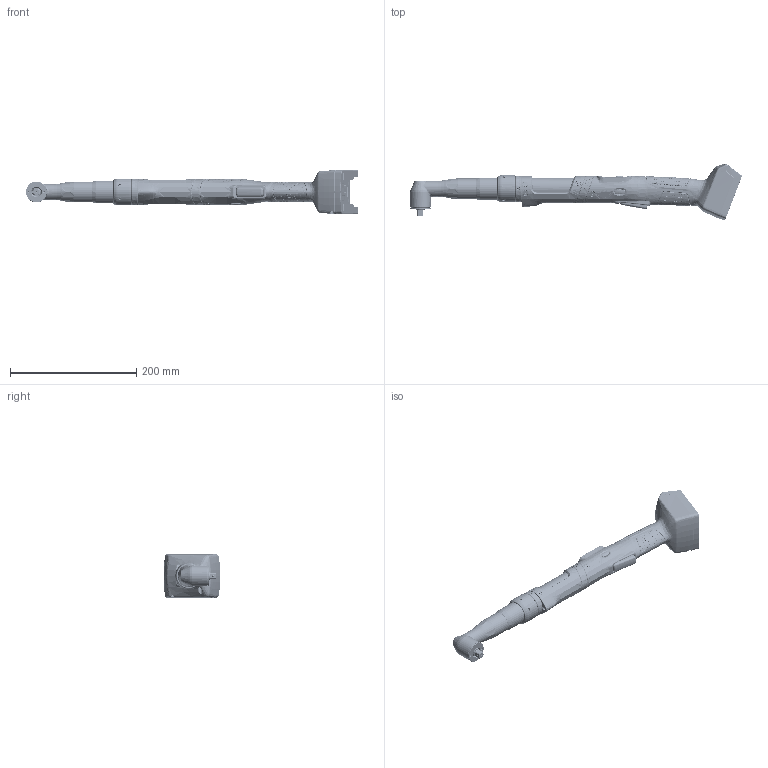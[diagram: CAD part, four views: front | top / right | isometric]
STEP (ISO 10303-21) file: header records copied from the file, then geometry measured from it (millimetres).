
FILE_DESCRIPTION((''),'2;1');
FILE_NAME('ASM0001_ASM','2019-12-09T',('A1X81'),(''),'CREO PARAMETRIC BY PTC INC, 2016050','CREO PARAMETRIC BY PTC INC, 2016050','');
FILE_SCHEMA(('CONFIG_CONTROL_DESIGN'));
Products named in the file (77): T50-3000249_SKEL_1; T50-3000229_SKEL_1; T50-1000607_1; T50-1000623_INSTALL_1; T50-3000229_ASM_1_ASM; T50-1000349-1_1; T50-1000349-2_1; T50-1000349-3_1; T50-1000349-4_1; T50-1000349-5_1; T50-1000349_ASM_1_ASM; T50-1000257_1; 207914PT_1; T50-3000139_ASM_1_ASM; T50-1000642_1; WP154A4_CELLTEK_RA_INSTALLED_1; T55-1000072_INSTALL_CELLTEK_RA__ASM; T50-1000616_4; M30X226S_1; T50-1000616_ASM_1_ASM; T50-1000721_1; T50-3000280_SKEL_1; T50-1000680-1_1; T50-1000631_1; T50-1000630-1_INSTALL_1; T50-1000630-2_INSTALL_1; T50-1000630-3_1; T50-1000630-5_1; T50-1000630-4_1; T50-1000630-6_1; T50-1000630-7_1; T50-1000630-11_1; T50-1000630-8_INSTALL_1; T50-1000630-10_1; T50-1000630-9_1; T50-1000630-12_INSTALL_1; T50-1000630_INSTALL_ASM_1_ASM; T50-3000280_ASM_1_ASM; T50-1000604_1; T50-1000615_3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
Assembly tree (94 placements, depth 6):
  ASM0001_ASM
    CTBAW383_ASM_2_ASM
      T50-3000249_ASM_5_ASM
        T50-3000249_SKEL_1
        T50-3000229_ASM_1_ASM
          T50-3000229_SKEL_1
          T50-1000607_1
          T50-1000623_INSTALL_1
        T50-1000349_ASM_1_ASM
          T50-1000349-1_1
          T50-1000349-2_1
          T50-1000349-3_1
          T50-1000349-4_1
          T50-1000349-5_1
        T50-3000139_ASM_1_ASM  x2
          T50-1000257_1
          207914PT_1
        T50-1000642_1
        T55-1000072_INSTALL_CELLTEK_RA__ASM
          WP154A4_CELLTEK_RA_INSTALLED_1
        T50-1000616_ASM_1_ASM
          T50-1000616_4
          M30X226S_1  x5
        T50-1000721_1  x2
        T50-3000280_ASM_1_ASM
          T50-3000280_SKEL_1
          T50-1000680-1_1
          T50-1000631_1
          T50-1000630_INSTALL_ASM_1_ASM
            T50-1000630-1_INSTALL_1
            T50-1000630-2_INSTALL_1
            T50-1000630-3_1
            T50-1000630-5_1
            T50-1000630-4_1
            T50-1000630-6_1
            T50-1000630-7_1
            T50-1000630-11_1
            T50-1000630-8_INSTALL_1
            T50-1000630-10_1
            T50-1000630-9_1
            T50-1000630-12_INSTALL_1
        T50-1000604_1
        T50-1000615_3
        T50-3000341_ASM_1_ASM
          T50-1000637_1
        843280_1
        T50-1000327-3_1  x5
        931791_1  x2
        T50-1001028_1  x8
      T50-1000722_INSTALLED_2
      T50-1000832_1
      T50-3000345_ASM_1_ASM
        T50-1000647_1
        T50-1000610_1
        T50-1000915-1_1
        T50-1000915-2_1
        T50-1000915-3_1
        936904PT_ASM_1_ASM
          936914PT_1
          936934PT_ASM_1_ASM
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Bounding box: 525.81 x 89.71 x 69.68 mm (x, y, z)
Volume: 110225.6 mm3; surface area: 263432.5 mm2
Topology: 76 solids, 80 shells, 13416 faces, 32969 edges, 19241 vertices
Faces by surface type: bspline 4242, cylinder 4173, plane 2268, sphere 952, torus 901, cone 621, extrusion 259
Entity records: 636492 total; most frequent: CARTESIAN_POINT 380693, ORIENTED_EDGE 60626, DIRECTION 41404, EDGE_CURVE 30407, VERTEX_POINT 18073, AXIS2_PLACEMENT_3D 16247, B_SPLINE_CURVE_WITH_KNOTS 14337, EDGE_LOOP 13063
